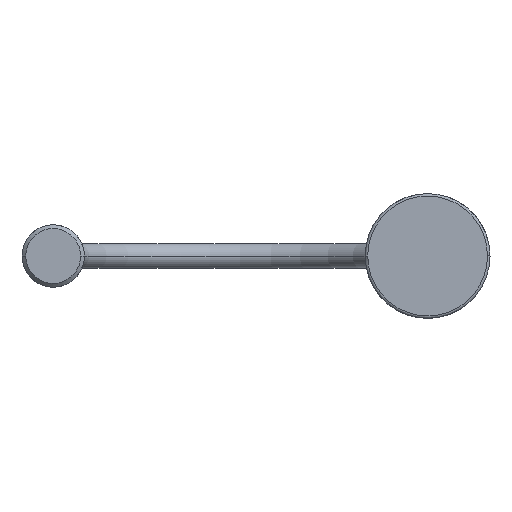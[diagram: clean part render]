
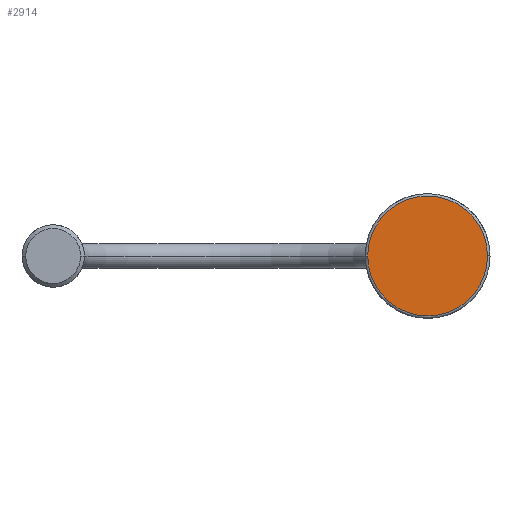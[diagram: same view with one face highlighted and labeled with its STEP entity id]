
A CAD part, left-side view. The second image highlights one B-rep face of the part: STEP entity #2914.
In plain terms, the highlighted planar face has unit normal (-1, 0, 0).
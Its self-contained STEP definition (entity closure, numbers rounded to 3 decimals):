
#836=CARTESIAN_POINT('',(-18.08,-30.,0.));
#837=DIRECTION('',(-1.,0.,0.));
#838=DIRECTION('',(0.,1.,0.));
#839=AXIS2_PLACEMENT_3D('',#836,#837,#838);
#856=CARTESIAN_POINT('',(-18.08,-30.,0.));
#857=DIRECTION('',(-1.,0.,0.));
#858=DIRECTION('',(0.,-1.,0.));
#859=AXIS2_PLACEMENT_3D('',#856,#857,#858);
#870=CARTESIAN_POINT('',(-18.08,-30.,0.));
#871=DIRECTION('',(1.,0.,0.));
#872=DIRECTION('',(0.,-1.,0.));
#873=AXIS2_PLACEMENT_3D('',#870,#871,#872);
#875=CARTESIAN_POINT('',(-18.08,-30.,0.));
#876=DIRECTION('',(1.,0.,0.));
#877=DIRECTION('',(0.,1.,0.));
#878=AXIS2_PLACEMENT_3D('',#875,#876,#877);
#1108=CARTESIAN_POINT('',(-18.08,-25.2,0.));
#1109=VERTEX_POINT('',#1108);
#1110=CARTESIAN_POINT('',(-18.08,-34.8,0.));
#1111=CARTESIAN_POINT('',(-18.08,-25.2,-0.057));
#1112=VERTEX_POINT('',#1110);
#1113=VERTEX_POINT('',#1111);
#1116=CARTESIAN_POINT('',(-18.08,-34.8,0.057));
#1117=VERTEX_POINT('',#1116);
#2903=CARTESIAN_POINT('',(-18.08,-30.,0.));
#2904=DIRECTION('',(-1.,0.,0.));
#2905=DIRECTION('',(0.,1.,0.));
#2906=AXIS2_PLACEMENT_3D('',#2903,#2904,#2905);
#2907=PLANE('',#2906);
#2908=ORIENTED_EDGE('',*,*,#2844,.T.);
#2909=ORIENTED_EDGE('',*,*,#2842,.F.);
#2910=ORIENTED_EDGE('',*,*,#2870,.T.);
#2911=ORIENTED_EDGE('',*,*,#2868,.F.);
#2912=EDGE_LOOP('',(#2908,#2909,#2910,#2911));
#2913=FACE_OUTER_BOUND('',#2912,.F.);
#840=CIRCLE('',#839,4.8);
#860=CIRCLE('',#859,4.8);
#874=CIRCLE('',#873,4.8);
#879=CIRCLE('',#878,4.8);
#2842=EDGE_CURVE('',#1109,#1113,#840,.T.);
#2844=EDGE_CURVE('',#1112,#1113,#874,.T.);
#2868=EDGE_CURVE('',#1112,#1117,#860,.T.);
#2870=EDGE_CURVE('',#1109,#1117,#879,.T.);
#2914=ADVANCED_FACE('',(#2913),#2907,.T.);
